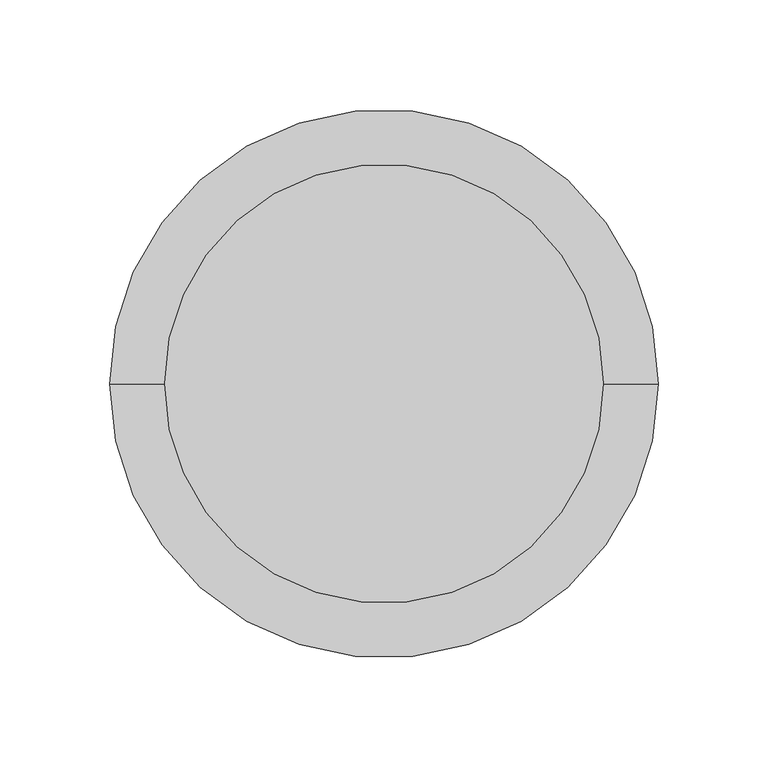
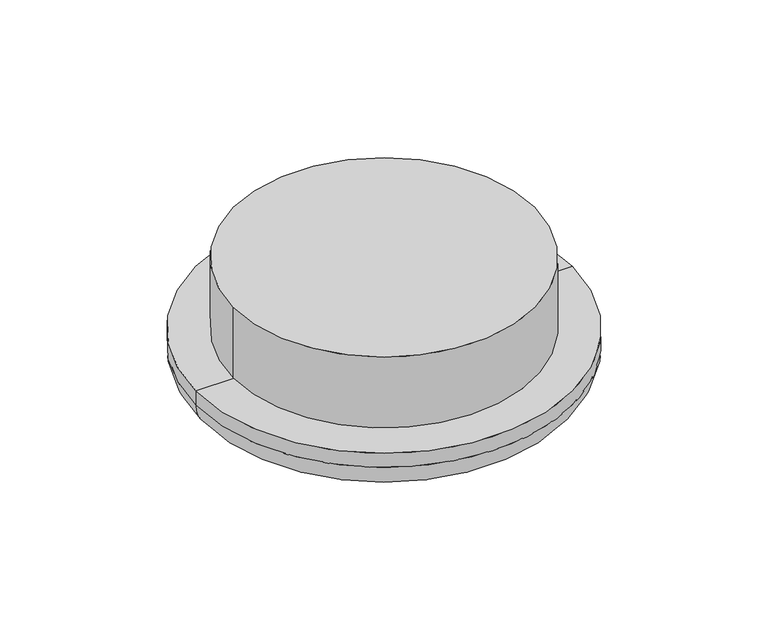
"""IFC4 building model written with IfcOpenShell, lengths in millimetres: air terminal geometry, 57_AT_afv_rozet_FB : afvoer_rozet_kanaaldiameter_200."""

from ifc_helpers import new_model, si_unit, point, frame, origin, origin_with_axes, origin_2d, place, context, project, spatial, circle_curve, ellipse_curve, trimmed, segment, composite_curve, outline, extrude, source, transform, mapped, element, save
from ifc_brep_helpers import plane_surface, cylinder_surface, revolved_surface, advanced_brep


def air_terminal_7d5c8a7b(model_context):
    return source(origin(), model_context, "Body", "SolidModel", [
        advanced_brep(
        [(0.0, 0.0, 0.0), (125.0, 0.0, 0.0), (-125.0, 0.0, 0.0), (-105.0, 0.0, -30.0), (105.0, 0.0, -30.0), (0.0, 0.0, -30.0), (-125.0, 0.0, -10.0), (125.0, 0.0, -10.0)],
        [
            (0, 1),
            (1, 2, circle_curve(origin_with_axes(), 125.0)),
            (2, 0),
            (2, 1, circle_curve(origin_with_axes(), 125.0)),
            (3, 4, circle_curve(frame((0.0, 0.0, -30.0), z_axis=(0.0, 0.0, -1.0), x_axis=(1.0, 0.0, 0.0)), 105.0)),
            (4, 5),
            (5, 3),
            (4, 3, circle_curve(frame((0.0, 0.0, -30.0), z_axis=(0.0, 0.0, -1.0), x_axis=(1.0, 0.0, 0.0)), 105.0)),
            (6, 7, circle_curve(frame((0.0, 0.0, -10.0), z_axis=(0.0, 0.0, -1.0), x_axis=(1.0, 0.0, 0.0)), 125.0)),
            (7, 4, circle_curve(frame((105.0, 0.0, -10.0), z_axis=(0.0, 1.0, 0.0), x_axis=(1.0, 0.0, 0.0)), 20.0)),
            (3, 6, circle_curve(frame((-105.0, 0.0, -10.0), z_axis=(0.0, 1.0, 0.0), x_axis=(-1.0, 0.0, 0.0)), 20.0)),
            (7, 6, circle_curve(frame((0.0, 0.0, -10.0), z_axis=(0.0, 0.0, -1.0), x_axis=(1.0, 0.0, 0.0)), 125.0)),
            (1, 7),
            (6, 2),
        ],
        [
            plane_surface(origin_with_axes()),
            plane_surface(frame((0.0, 0.0, -30.0), z_axis=(0.0, 0.0, -1.0), x_axis=(1.0, 0.0, 0.0))),
            revolved_surface(trimmed(ellipse_curve(frame((105.0, 0.0, -10.0), z_axis=(0.0, -1.0, 0.0), x_axis=(1.0, 0.0, 0.0)), 20.0, 20.0), [point((105.0, 0.0, -30.0))], [point((125.0, 0.0, -10.0))], True, "CARTESIAN"), (0.0, 0.0, 520.0), (0.0, 0.0, 1.0)),
            cylinder_surface(frame((0.0, 0.0, 520.0), z_axis=(0.0, 0.0, 1.0), x_axis=(1.0, 0.0, 0.0)), 125.0),
        ],
        [
            (0, [[1, 2, 3]]),
            (0, [[-3, 4, -1]]),
            (1, [[5, 6, 7]]),
            (1, [[8, -7, -6]]),
            (2, [[9, 10, -5, 11]]),
            (2, [[12, -11, -8, -10]]),
            (3, [[-2, 13, -9, 14]]),
            (3, [[-4, -14, -12, -13]]),
        ],
    ),
        extrude(outline(composite_curve([segment(trimmed(circle_curve(origin_2d(), 100.0), [point((-100.0, 0.0))], [point((100.0, 0.0))], False, "CARTESIAN"), True, "CONTINUOUS"), segment(trimmed(circle_curve(origin_2d(), 100.0), [point((100.0, 0.0))], [point((-100.0, 0.0))], False, "CARTESIAN"), True, "CONTINUOUS")], self_intersect=False)), origin_with_axes(), (0.0, 0.0, 1.0), 50.0),
    ])


if __name__ == "__main__":
    model = new_model("IFC4")
    model_context = context("Model", 3, world=origin())
    ifc_project = project(units=[si_unit("LENGTHUNIT", "METRE", prefix="MILLI")], contexts=[model_context])
    site = spatial("IfcSite", under=ifc_project)
    building = spatial("IfcBuilding", under=site)
    placement = place(None, origin())
    air_terminal_shape = air_terminal_7d5c8a7b(model_context)
    element("IfcAirTerminal", 1, ObjectType="57_AT_afv_rozet_FB : afvoer_rozet_kanaaldiameter_200", at=placement, inside=building, context=model_context, shape_type="MappedRepresentation", body=[
        mapped(air_terminal_shape, transform((0.0, 0.0, 0.0), x_axis=(1.0, 0.0, 0.0), y_axis=(0.0, 1.0, 0.0), z_axis=(0.0, 0.0, 1.0))),
    ])
    save(model, "model.ifc")
